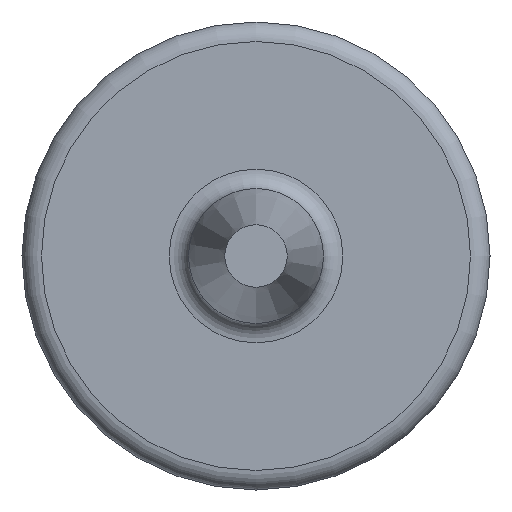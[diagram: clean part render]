
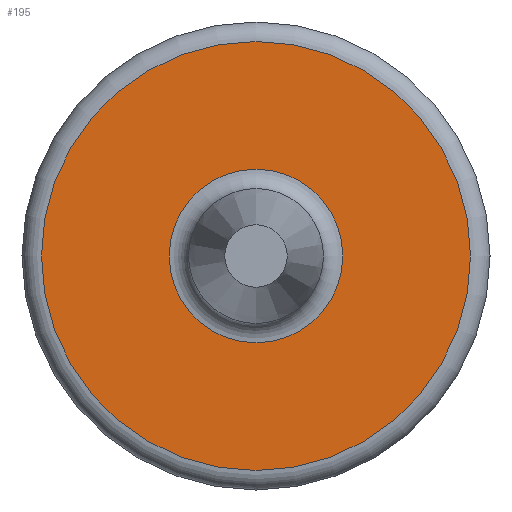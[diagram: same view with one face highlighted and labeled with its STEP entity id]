
A CAD part, left-side view. The second image highlights one B-rep face of the part: STEP entity #195.
In plain terms, the highlighted planar face has unit normal (-1, 0, 0).
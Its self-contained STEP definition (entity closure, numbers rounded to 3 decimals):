
#22=PLANE('',#222);
#31=FACE_BOUND('',#70,.T.);
#46=FACE_OUTER_BOUND('',#69,.T.);
#69=EDGE_LOOP('',(#149));
#70=EDGE_LOOP('',(#150));
#95=CIRCLE('',#220,1.112);
#97=CIRCLE('',#223,2.75);
#111=VERTEX_POINT('',#328);
#113=VERTEX_POINT('',#333);
#127=EDGE_CURVE('',#111,#111,#95,.T.);
#129=EDGE_CURVE('',#113,#113,#97,.T.);
#149=ORIENTED_EDGE('',*,*,#129,.F.);
#150=ORIENTED_EDGE('',*,*,#127,.F.);
#195=ADVANCED_FACE('',(#46,#31),#22,.T.);
#220=AXIS2_PLACEMENT_3D('',#329,#267,#268);
#222=AXIS2_PLACEMENT_3D('',#332,#271,#272);
#223=AXIS2_PLACEMENT_3D('',#334,#273,#274);
#267=DIRECTION('center_axis',(-1.,0.,0.));
#268=DIRECTION('ref_axis',(0.,0.,-1.));
#271=DIRECTION('center_axis',(-1.,0.,0.));
#272=DIRECTION('ref_axis',(0.,0.,1.));
#273=DIRECTION('center_axis',(1.,0.,0.));
#274=DIRECTION('ref_axis',(0.,0.,-1.));
#328=CARTESIAN_POINT('',(-6.5,0.,1.112));
#329=CARTESIAN_POINT('Origin',(-6.5,0.,0.));
#332=CARTESIAN_POINT('Origin',(-6.5,0.,0.9));
#333=CARTESIAN_POINT('',(-6.5,0.,2.75));
#334=CARTESIAN_POINT('Origin',(-6.5,0.,0.));
